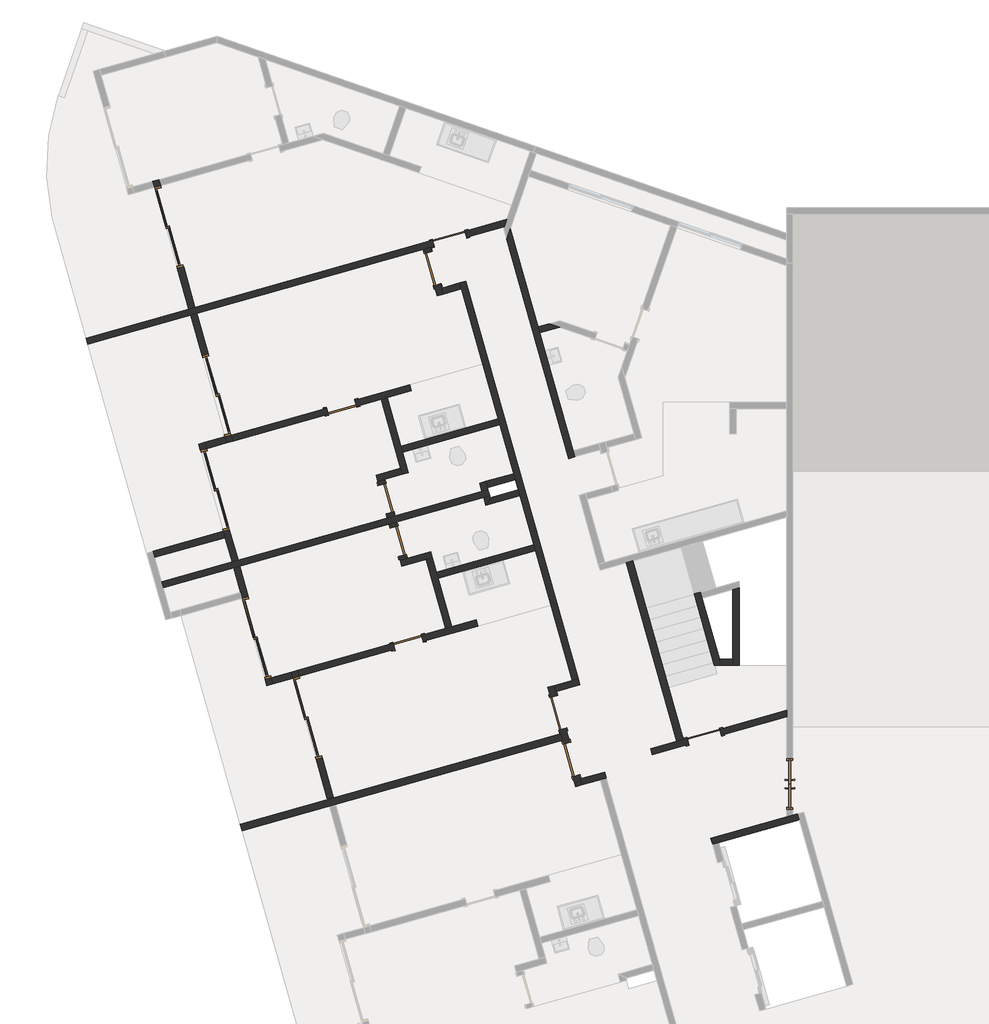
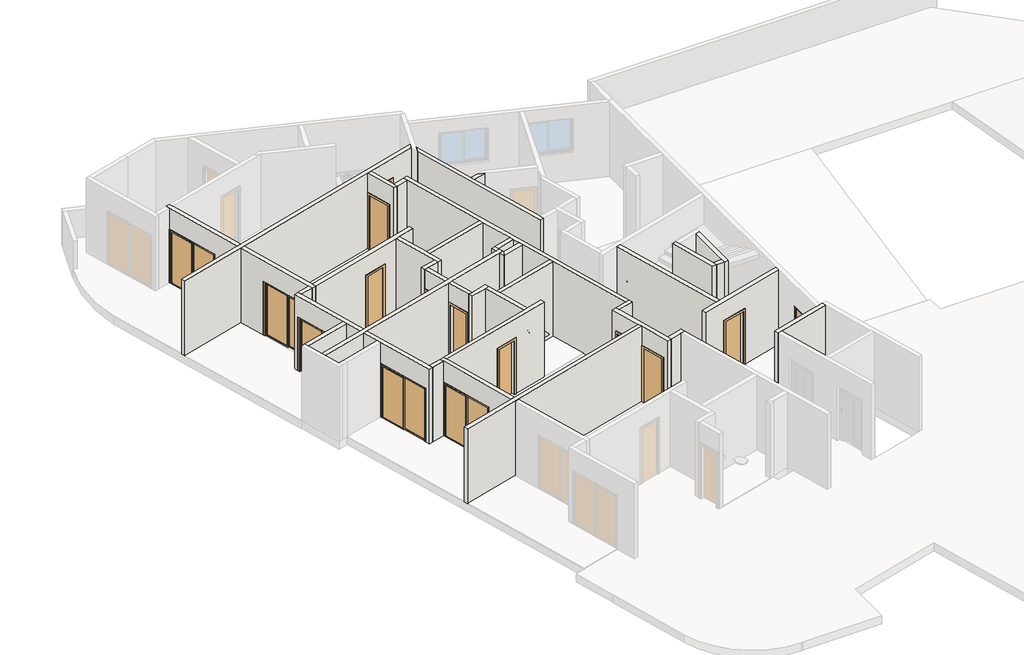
# One storey, part 2 of 4: 39 walls, 15 doors.
"""IFC4 building model written with IfcOpenShell, lengths in millimetres."""

from ifc_helpers import new_model, si_unit, frame, origin, place, context, project, spatial, polyline, outline, extrude, faceted_brep, transform, mapped, element, save
from components import door_1_20_x_2_10_046a985c, p2_80cm_9d4be4ef, p2_80cm_083652d6, p3_70cm_ef4d15e3, p3_70cm_0a698c7c, p4_correr_200cm_eaaa0877

model = new_model("IFC4")

# Units and contexts
model_context = context("Model", 3, world=origin())
ifc_project = project(units=[si_unit("LENGTHUNIT", "METRE", prefix="MILLI")], contexts=[model_context])

# Site, building, storey
site = spatial("IfcSite", under=ifc_project)
building = spatial("IfcBuilding", under=site)
storey = spatial("IfcBuildingStorey", under=building, Name="Garagem 4", Elevation=39150.0)

# Doors
placement = place(None, origin())
door_1_20_x_2_10_shape = door_1_20_x_2_10_046a985c(model_context)
element("IfcDoor", 1, ObjectType="Porta pivotante dupla sem revestimento : 1.20 x 2.10", at=placement, inside=storey, context=model_context, shape_type="MappedRepresentation", body=[
    mapped(door_1_20_x_2_10_shape, transform((-75072.8282189, 18002.5140353, 39150.0), x_axis=(0.0, -1.0, 0.0), y_axis=(1.0, 0.0, 0.0), z_axis=(0.0, 0.0, 1.0))),
])
p2_80cm_shape = p2_80cm_9d4be4ef(model_context)
element("IfcDoor", 2, ObjectType="M_Folha única1 : P2 - 80CM", at=placement, inside=storey, context=model_context, shape_type="MappedRepresentation", body=[
    mapped(p2_80cm_shape, transform((-83145.1128896, 30941.0402894, 39150.0), x_axis=(-0.9623628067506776, -0.2717679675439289, 0.0), y_axis=(0.2717679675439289, -0.9623628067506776, 0.0), z_axis=(0.0, 0.0, 1.0))),
])
element("IfcDoor", 3, ObjectType="M_Folha única1 : P2 - 80CM", at=placement, inside=storey, context=model_context, shape_type="MappedRepresentation", body=[
    mapped(p2_80cm_shape, transform((-80566.3456776, 19693.5423602, 39150.0), x_axis=(0.2717679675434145, -0.9623628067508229, 0.0), y_axis=(0.9623628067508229, 0.2717679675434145, 0.0), z_axis=(0.0, 0.0, 1.0))),
])
p2_80cm_2_shape = p2_80cm_083652d6(model_context)
element("IfcDoor", 4, ObjectType="M_Folha única1 : P2 - 80CM", at=placement, inside=storey, context=model_context, shape_type="MappedRepresentation", body=[
    mapped(p2_80cm_2_shape, transform((-83542.2049222, 30231.4150941, 39150.0), x_axis=(-0.2717679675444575, 0.9623628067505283, 0.0), y_axis=(-0.9623628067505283, -0.2717679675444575, 0.0), z_axis=(0.0, 0.0, 1.0))),
])
element("IfcDoor", 5, ObjectType="M_Folha única1 : P2 - 80CM", at=placement, inside=storey, context=model_context, shape_type="MappedRepresentation", body=[
    mapped(p2_80cm_2_shape, transform((-80253.8125149, 18586.8251325, 39150.0), x_axis=(-0.2717679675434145, 0.9623628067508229, 0.0), y_axis=(-0.9623628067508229, -0.2717679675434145, 0.0), z_axis=(0.0, 0.0, 1.0))),
])
p3_70cm_shape = p3_70cm_ef4d15e3(model_context)
element("IfcDoor", 6, ObjectType="M_Folha única1 : P3 - 70CM", at=placement, inside=storey, context=model_context, shape_type="MappedRepresentation", body=[
    mapped(p3_70cm_shape, transform((-84129.1775441, 21363.1168842, 39150.0), x_axis=(0.9623628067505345, 0.27176796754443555, 0.0), y_axis=(-0.27176796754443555, 0.9623628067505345, 0.0), z_axis=(0.0, 0.0, 1.0))),
])
element("IfcDoor", 7, ObjectType="M_Folha única1 : P3 - 70CM", at=placement, inside=storey, context=model_context, shape_type="MappedRepresentation", body=[
    mapped(p3_70cm_shape, transform((-84650.97864, 24774.7108835, 39150.0), x_axis=(0.2717679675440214, -0.9623628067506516, 0.0), y_axis=(0.9623628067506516, 0.2717679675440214, 0.0), z_axis=(0.0, 0.0, 1.0))),
])
p3_70cm_2_shape = p3_70cm_0a698c7c(model_context)
element("IfcDoor", 8, ObjectType="M_Folha única1 : P3 - 70CM", at=placement, inside=storey, context=model_context, shape_type="MappedRepresentation", body=[
    mapped(p3_70cm_2_shape, transform((-84365.6222741, 23764.2299364, 39150.0), x_axis=(-0.2717679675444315, 0.9623628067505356, 0.0), y_axis=(-0.9623628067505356, -0.2717679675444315, 0.0), z_axis=(0.0, 0.0, 1.0))),
])
element("IfcDoor", 9, ObjectType="M_Folha única1 : P3 - 70CM", at=placement, inside=storey, context=model_context, shape_type="MappedRepresentation", body=[
    mapped(p3_70cm_2_shape, transform((-85705.4317558, 26944.8211633, 39150.0), x_axis=(0.9623628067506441, 0.2717679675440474, 0.0), y_axis=(-0.2717679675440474, 0.9623628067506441, 0.0), z_axis=(0.0, 0.0, 1.0))),
])
p4_correr_200cm_shape = p4_correr_200cm_eaaa0877(model_context)
element("IfcDoor", 10, ObjectType="Porta de correr dupla envidraçada sem revestimento : P4 - CORRER - 200CM", at=placement, inside=storey, context=model_context, shape_type="MappedRepresentation", body=[
    mapped(p4_correr_200cm_shape, transform((-89799.7974026, 31217.9316171, 39150.0), x_axis=(0.27176796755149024, -0.9623628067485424, 0.0), y_axis=(0.9623628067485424, 0.27176796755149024, 0.0), z_axis=(0.0, 0.0, 1.0))),
])
element("IfcDoor", 11, ObjectType="Porta de correr dupla envidraçada sem revestimento : P4 - CORRER - 200CM", at=placement, inside=storey, context=model_context, shape_type="MappedRepresentation", body=[
    mapped(p4_correr_200cm_shape, transform((-88671.9603372, 27224.125969, 39150.0), x_axis=(-0.27176796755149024, 0.9623628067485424, 0.0), y_axis=(-0.9623628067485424, -0.27176796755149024, 0.0), z_axis=(0.0, 0.0, 1.0))),
])
element("IfcDoor", 12, ObjectType="Porta de correr dupla envidraçada sem revestimento : P4 - CORRER - 200CM", at=placement, inside=storey, context=model_context, shape_type="MappedRepresentation", body=[
    mapped(p4_correr_200cm_shape, transform((-86511.4049952, 19573.3416554, 39150.0), x_axis=(0.2717679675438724, -0.9623628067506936, 0.0), y_axis=(0.9623628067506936, 0.2717679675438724, 0.0), z_axis=(0.0, 0.0, 1.0))),
])
element("IfcDoor", 13, ObjectType="Porta de correr dupla envidraçada sem revestimento : P4 - CORRER - 200CM", at=placement, inside=storey, context=model_context, shape_type="MappedRepresentation", body=[
    mapped(p4_correr_200cm_shape, transform((-87717.4207223, 21466.8516126, 39150.0), x_axis=(0.2717679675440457, -0.9623628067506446, 0.0), y_axis=(0.9623628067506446, 0.2717679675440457, 0.0), z_axis=(0.0, 0.0, 1.0))),
])
element("IfcDoor", 14, ObjectType="Porta de correr dupla envidraçada sem revestimento : P4 - CORRER - 200CM", at=placement, inside=storey, context=model_context, shape_type="MappedRepresentation", body=[
    mapped(p4_correr_200cm_shape, transform((-88709.3738038, 24979.4758572, 39150.0), x_axis=(-0.2717679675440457, 0.9623628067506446, 0.0), y_axis=(-0.9623628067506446, -0.2717679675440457, 0.0), z_axis=(0.0, 0.0, 1.0))),
])
element("IfcDoor", 15, ObjectType="M_Folha única1 : PCF1 - 80CM", at=placement, inside=storey, context=model_context, shape_type="MappedRepresentation", body=[
    mapped(p2_80cm_shape, transform((-77103.5502958, 19127.1105693, 39150.0), x_axis=(-0.9623628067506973, -0.2717679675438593, 0.0), y_axis=(0.2717679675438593, -0.9623628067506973, 0.0), z_axis=(0.0, 0.0, 1.0))),
])

# Walls
element("IfcWall", 16, ObjectType="Básica .15 -  Interna", at=placement, inside=storey, context=model_context, shape_type="Brep", body=[
    faceted_brep([(-82901.0804648, 29892.9118737, 39150.0), (-82860.3152697, 29748.5574527, 39150.0), (-81990.6577736, 26668.9964711, 39150.0), (-81949.8925784, 26524.6420501, 39150.0), (-81623.7710174, 25369.806682, 39150.0), (-81583.0058223, 25225.452261, 39150.0), (-81515.0638304, 24984.8615593, 39150.0), (-81474.2986352, 24840.5071383, 39150.0), (-81148.1770742, 23685.6717702, 39150.0), (-81107.4118791, 23541.3173492, 39150.0), (-80237.7543829, 20461.7563676, 39150.0), (-80237.7543829, 20461.7563676, 42050.0), (-81107.4118791, 23541.3173492, 42050.0), (-81148.1770742, 23685.6717702, 42050.0), (-81474.2986352, 24840.5071383, 42050.0), (-81515.0638304, 24984.8615593, 42050.0), (-81583.0058223, 25225.452261, 42050.0), (-81623.7710174, 25369.806682, 42050.0), (-81949.8925784, 26524.6420501, 42050.0), (-81990.6577736, 26668.9964711, 42050.0), (-82860.3152697, 29748.5574527, 42050.0), (-82901.0804648, 29892.9118737, 42050.0), (-82756.7260438, 29933.6770689, 39150.0), (-82756.7260438, 29933.6770689, 42050.0), (-80093.3999619, 20502.5215627, 42050.0), (-80093.3999619, 20502.5215627, 39150.0)], [[[0, 1, 2, 3, 4, 5, 6, 7, 8, 9, 10, 11, 12, 13, 14, 15, 16, 17, 18, 19, 20, 21]], [[22, 23, 24, 25]], [[10, 9, 8, 7, 6, 5, 4, 3, 2, 1, 0, 22, 25]], [[21, 20, 19, 18, 17, 16, 15, 14, 13, 12, 11, 24, 23]], [[0, 21, 23, 22]], [[11, 10, 25, 24]]]),
])
element("IfcWall", 17, ObjectType="Básica .15 -  Interna", at=placement, inside=storey, context=model_context, shape_type="Brep", body=[
    faceted_brep([(-83750.2661164, 30692.2138999, 39150.0), (-83723.0893197, 30595.9776193, 39150.0), (-83723.0893197, 30595.9776193, 41250.0), (-83505.6749457, 29826.0873739, 41250.0), (-83505.6749457, 29826.0873739, 39150.0), (-83437.7329538, 29585.4966722, 39150.0), (-83437.7329538, 29585.4966722, 42050.0), (-83750.2661164, 30692.2138999, 42050.0), (-83578.7348987, 30636.7428144, 41250.0), (-83578.7348987, 30636.7428144, 39150.0), (-83605.9116954, 30732.9790951, 39150.0), (-83605.9116954, 30732.9790951, 42050.0), (-83334.1437279, 29770.6162883, 42050.0), (-83293.3785328, 29626.2618673, 42050.0), (-83293.3785328, 29626.2618673, 39150.0), (-83334.1437279, 29770.6162883, 39150.0), (-83361.3205246, 29866.852569, 39150.0), (-83361.3205246, 29866.852569, 41250.0)], [[[0, 1, 2, 3, 4, 5, 6, 7]], [[8, 9, 10, 11, 12, 13, 14, 15, 16, 17]], [[10, 9, 1, 0]], [[16, 15, 14, 5, 4]], [[7, 6, 13, 12, 11]], [[6, 5, 14, 13]], [[0, 7, 11, 10]], [[2, 1, 9, 8]], [[3, 2, 8, 17]], [[4, 3, 17, 16]]]),
])
element("IfcWall", 18, ObjectType="Básica .15 -  Interna", at=placement, inside=storey, context=model_context, shape_type="SweptSolid", body=[
    extrude(outline(polyline([(-82860.3152697, 29748.5574527), (-83293.3785328, 29626.2618673), (-83334.1437279, 29770.6162883), (-82901.0804648, 29892.9118737), (-82860.3152697, 29748.5574527)])), frame((0.0, 0.0, 39150.0), z_axis=(0.0, 0.0, 1.0), x_axis=(1.0, 0.0, 0.0)), (0.0, 0.0, 1.0), 2900.0),
])
element("IfcWall", 19, ObjectType="Básica .15 -  Interna", at=placement, inside=storey, context=model_context, shape_type="Brep", body=[
    faceted_brep([(-80093.3999619, 20502.5215627, 39150.0), (-80237.7543829, 20461.7563676, 39150.0), (-80670.817646, 20339.4607822, 39150.0), (-80670.817646, 20339.4607822, 42050.0), (-80237.7543829, 20461.7563676, 42050.0), (-80093.3999619, 20502.5215627, 42050.0), (-80052.6347668, 20358.1671417, 39150.0), (-80052.6347668, 20358.1671417, 42050.0), (-80630.0524508, 20195.1063612, 42050.0), (-80630.0524508, 20195.1063612, 39150.0)], [[[0, 1, 2, 3, 4, 5]], [[6, 7, 8, 9]], [[2, 1, 0, 6, 9]], [[5, 4, 3, 8, 7]], [[3, 2, 9, 8]], [[0, 5, 7, 6]]]),
])
element("IfcWall", 20, ObjectType="Básica .15 -  Interna", at=placement, inside=storey, context=model_context, shape_type="Brep", body=[
    faceted_brep([(-80529.815701, 19288.21464, 39150.0), (-80502.6389043, 19191.9783593, 39150.0), (-80461.8737092, 19047.6239383, 39150.0), (-80434.6969124, 18951.3876576, 39150.0), (-80434.6969124, 18951.3876576, 41250.0), (-80217.2825384, 18181.4974122, 41250.0), (-80217.2825384, 18181.4974122, 39150.0), (-80149.3405465, 17940.9067105, 39150.0), (-80149.3405465, 17940.9067105, 42050.0), (-80461.8737092, 19047.6239383, 42050.0), (-80502.6389043, 19191.9783593, 42050.0), (-80815.172067, 20298.695587, 42050.0), (-80815.172067, 20298.695587, 39150.0), (-80747.2300751, 20058.1048854, 39150.0), (-80747.2300751, 20058.1048854, 41250.0), (-80529.815701, 19288.21464, 41250.0), (-80290.3424914, 18992.1528527, 41250.0), (-80290.3424914, 18992.1528527, 39150.0), (-80385.46128, 19328.9798351, 39150.0), (-80385.46128, 19328.9798351, 41250.0), (-80602.8756541, 20098.8700805, 41250.0), (-80602.8756541, 20098.8700805, 39150.0), (-80630.0524508, 20195.1063612, 39150.0), (-80670.817646, 20339.4607822, 39150.0), (-80670.817646, 20339.4607822, 42050.0), (-80630.0524508, 20195.1063612, 42050.0), (-80045.7513206, 18126.0263266, 42050.0), (-80004.9861255, 17981.6719056, 42050.0), (-80004.9861255, 17981.6719056, 39150.0), (-80045.7513206, 18126.0263266, 39150.0), (-80072.9281174, 18222.2626073, 39150.0), (-80072.9281174, 18222.2626073, 41250.0)], [[[0, 1, 2, 3, 4, 5, 6, 7, 8, 9, 10, 11, 12, 13, 14, 15]], [[16, 17, 18, 19, 20, 21, 22, 23, 24, 25, 26, 27, 28, 29, 30, 31]], [[13, 12, 23, 22, 21]], [[18, 17, 3, 2, 1, 0]], [[30, 29, 28, 7, 6]], [[11, 10, 9, 8, 27, 26, 25, 24]], [[12, 11, 24, 23]], [[8, 7, 28, 27]], [[19, 18, 0, 15]], [[20, 19, 15, 14]], [[21, 20, 14, 13]], [[4, 3, 17, 16]], [[5, 4, 16, 31]], [[6, 5, 31, 30]]]),
])
element("IfcWall", 21, ObjectType="Básica .15 -  Interna", at=placement, inside=storey, context=model_context, shape_type="Brep", body=[
    faceted_brep([(-80004.9861255, 17981.6719056, 39150.0), (-79571.9228624, 18103.967491, 39150.0), (-79427.5684414, 18144.7326862, 39150.0), (-79427.5684414, 18144.7326862, 42050.0), (-79571.9228624, 18103.967491, 42050.0), (-80004.9861255, 17981.6719056, 42050.0), (-80045.7513206, 18126.0263266, 39150.0), (-80045.7513206, 18126.0263266, 42050.0), (-79468.3336366, 18289.0871072, 42050.0), (-79468.3336366, 18289.0871072, 39150.0)], [[[0, 1, 2, 3, 4, 5]], [[6, 7, 8, 9]], [[2, 1, 0, 6, 9]], [[5, 4, 3, 8, 7]], [[3, 2, 9, 8]], [[0, 5, 7, 6]]]),
])
element("IfcWall", 22, ObjectType="Básica .15 -  Interna", at=placement, inside=storey, context=model_context, shape_type="Brep", body=[
    faceted_brep([(-86046.8404698, 17652.2925145, 39150.0), (-86046.8404698, 17652.2925145, 42050.0), (-86855.3501733, 20515.3218646, 42050.0), (-86896.1153684, 20659.6762856, 42050.0), (-86896.1153684, 20659.6762856, 39150.0), (-86855.3501733, 20515.3218646, 39150.0), (-86855.3501733, 20515.3218646, 41250.0), (-86311.8142382, 18590.596251, 41250.0), (-86311.8142382, 18590.596251, 39150.0), (-85902.4860488, 17693.0577096, 42050.0), (-85902.4860488, 17693.0577096, 39150.0), (-86167.4598172, 18631.3614462, 39150.0), (-86167.4598172, 18631.3614462, 41250.0), (-86710.9957523, 20556.0870597, 41250.0), (-86710.9957523, 20556.0870597, 39150.0), (-86751.7609474, 20700.4414807, 39150.0), (-86751.7609474, 20700.4414807, 42050.0), (-86710.9957523, 20556.0870597, 42050.0)], [[[0, 1, 2, 3, 4, 5, 6, 7, 8]], [[9, 10, 11, 12, 13, 14, 15, 16, 17]], [[10, 0, 8, 11]], [[4, 15, 14, 5]], [[1, 0, 10, 9]], [[3, 2, 1, 9, 17, 16]], [[4, 3, 16, 15]], [[7, 12, 11, 8]], [[12, 7, 6, 13]], [[13, 6, 5, 14]]]),
])
element("IfcWall", 23, ObjectType="Básica .15 -  Interna", at=placement, inside=storey, context=model_context, shape_type="Brep", body=[
    faceted_brep([(-88305.9570711, 23274.9583478, 42050.0), (-88469.0178517, 23852.3760319, 42050.0), (-88509.7830468, 23996.7304529, 42050.0), (-89094.084177, 26065.8104874, 42050.0), (-89094.084177, 26065.8104874, 39150.0), (-89053.3189819, 25921.4560664, 39150.0), (-89053.3189819, 25921.4560664, 41250.0), (-88509.7830468, 23996.7304529, 41250.0), (-88509.7830468, 23996.7304529, 39150.0), (-88469.0178517, 23852.3760319, 39150.0), (-88305.9570711, 23274.9583478, 39150.0), (-88949.729756, 26106.5756825, 42050.0), (-88908.9645609, 25962.2212615, 42050.0), (-88161.6026501, 23315.723543, 42050.0), (-88161.6026501, 23315.723543, 39150.0), (-88365.4286258, 24037.495648, 39150.0), (-88365.4286258, 24037.495648, 41250.0), (-88908.9645609, 25962.2212615, 41250.0), (-88908.9645609, 25962.2212615, 39150.0), (-88949.729756, 26106.5756825, 39150.0)], [[[0, 1, 2, 3, 4, 5, 6, 7, 8, 9, 10]], [[11, 12, 13, 14, 15, 16, 17, 18, 19]], [[4, 19, 18, 5]], [[14, 10, 9, 8, 15]], [[3, 2, 1, 0, 13, 12, 11]], [[4, 3, 11, 19]], [[0, 10, 14, 13]], [[17, 6, 5, 18]], [[6, 17, 16, 7]], [[7, 16, 15, 8]]]),
])
element("IfcWall", 24, ObjectType="Básica .15 -  Interna", at=placement, inside=storey, context=model_context, shape_type="Brep", body=[
    faceted_brep([(-89143.3190618, 29169.2341801, 42050.0), (-88328.0151592, 26282.1457598, 42050.0), (-88287.249964, 26137.7913388, 42050.0), (-88287.249964, 26137.7913388, 39150.0), (-88328.0151592, 26282.1457598, 39150.0), (-88328.0151592, 26282.1457598, 41250.0), (-88871.5510943, 28206.8713733, 41250.0), (-88871.5510943, 28206.8713733, 39150.0), (-89143.3190618, 29169.2341801, 39150.0), (-88431.604385, 26097.0261437, 42050.0), (-88472.3695802, 26241.3805647, 42050.0), (-89287.6734828, 29128.468985, 42050.0), (-89287.6734828, 29128.468985, 39150.0), (-89015.9055153, 28166.1061782, 39150.0), (-89015.9055153, 28166.1061782, 41250.0), (-88472.3695802, 26241.3805647, 41250.0), (-88472.3695802, 26241.3805647, 39150.0), (-88431.604385, 26097.0261437, 39150.0)], [[[0, 1, 2, 3, 4, 5, 6, 7, 8]], [[9, 10, 11, 12, 13, 14, 15, 16, 17]], [[3, 17, 16, 4]], [[12, 8, 7, 13]], [[2, 1, 0, 11, 10, 9]], [[3, 2, 9, 17]], [[0, 8, 12, 11]], [[6, 14, 13, 7]], [[14, 6, 5, 15]], [[15, 5, 4, 16]]]),
])
element("IfcWall", 25, ObjectType="Básica .15 -  Interna", at=placement, inside=storey, context=model_context, shape_type="Brep", body=[
    faceted_brep([(-76904.7538909, 16570.3643175, 39150.0), (-76760.3994699, 16611.1295126, 39150.0), (-74840.4856705, 17153.3066079, 39150.0), (-74840.4856705, 17153.3066079, 42050.0), (-76760.3994699, 16611.1295126, 42050.0), (-76904.7538909, 16570.3643175, 42050.0), (-76945.5190861, 16714.7187385, 39150.0), (-76945.5190861, 16714.7187385, 42050.0), (-75147.8282189, 17222.3804954, 42050.0), (-74997.8282189, 17264.7399828, 42050.0), (-74881.2508656, 17297.6610289, 42050.0), (-74881.2508656, 17297.6610289, 39150.0), (-74997.8282189, 17264.7399828, 39150.0), (-75147.8282189, 17222.3804954, 39150.0)], [[[0, 1, 2, 3, 4, 5]], [[6, 7, 8, 9, 10, 11, 12, 13]], [[2, 1, 0, 6, 13, 12, 11]], [[5, 4, 3, 10, 9, 8, 7]], [[0, 5, 7, 6]], [[3, 2, 11, 10]]]),
])
element("IfcWall", 26, ObjectType="Básica .15 -  Interna", at=placement, inside=storey, context=model_context, shape_type="SweptSolid", body=[
    extrude(outline(polyline([(-77749.4687652, 19022.6385875), (-78948.2127609, 23254.4051886), (-78803.8582924, 23295.1703972), (-77605.1142967, 19063.4037961), (-77749.4687652, 19022.6385875)])), frame((0.0, 0.0, 39150.0), z_axis=(0.0, 0.0, 1.0), x_axis=(1.0, 0.0, 0.0)), (0.0, 0.0, 1.0), 2900.0),
])
element("IfcWall", 27, ObjectType="Básica .15 -  Interna", at=placement, inside=storey, context=model_context, shape_type="Brep", body=[
    faceted_brep([(-77508.878016, 19090.5805928, 41250.0), (-77508.878016, 19090.5805928, 39150.0), (-77605.1142967, 19063.4037961, 39150.0), (-77749.4687652, 19022.6385875, 39150.0), (-78375.5945972, 18845.8227925, 39150.0), (-78375.5945972, 18845.8227925, 42050.0), (-77749.4687652, 19022.6385875, 42050.0), (-77605.1142967, 19063.4037961, 42050.0), (-75147.8282189, 19757.3329862, 42050.0), (-75147.8282189, 19757.3329862, 39150.0), (-76738.9877706, 19307.9949669, 39150.0), (-76738.9877706, 19307.9949669, 41250.0), (-78334.829402, 18701.4683715, 39150.0), (-77468.1128209, 18946.2261718, 39150.0), (-77468.1128209, 18946.2261718, 41250.0), (-76698.2225755, 19163.6405459, 41250.0), (-76698.2225755, 19163.6405459, 39150.0), (-75147.8282189, 19601.4666134, 39150.0), (-75147.8282189, 19601.4666134, 42050.0), (-78334.829402, 18701.4683715, 42050.0)], [[[0, 1, 2, 3, 4, 5, 6, 7, 8, 9, 10, 11]], [[12, 13, 14, 15, 16, 17, 18, 19]], [[10, 9, 17, 16]], [[4, 3, 2, 1, 13, 12]], [[5, 4, 12, 19]], [[8, 7, 6, 5, 19, 18]], [[14, 13, 1, 0]], [[15, 14, 0, 11]], [[16, 15, 11, 10]], [[9, 8, 18, 17]]]),
])
element("IfcWall", 28, ObjectType="Básica .15 -  Interna", at=placement, inside=storey, context=model_context, shape_type="Brep", body=[
    faceted_brep([(-81789.2550074, 30934.0017027, 39150.0), (-80318.2667662, 25725.0567879, 39150.0), (-80318.2667662, 25725.0567879, 42050.0), (-81789.2550074, 30934.0017027, 42050.0), (-81703.3880158, 31181.8778654, 39150.0), (-81703.3880158, 31181.8778654, 42050.0), (-81045.1503443, 28850.9797144, 42050.0), (-81004.3851492, 28706.6252933, 42050.0), (-80214.6775403, 25910.176404, 42050.0), (-80173.9123452, 25765.821983, 42050.0), (-80173.9123452, 25765.821983, 39150.0), (-80214.6775403, 25910.176404, 39150.0), (-81004.3851492, 28706.6252933, 39150.0), (-81045.1503443, 28850.9797144, 39150.0)], [[[0, 1, 2, 3]], [[4, 5, 6, 7, 8, 9, 10, 11, 12, 13]], [[1, 0, 4, 13, 12, 11, 10]], [[3, 2, 9, 8, 7, 6, 5]], [[0, 3, 5, 4]], [[2, 1, 10, 9]]]),
])
element("IfcWall", 29, ObjectType="Básica .15 -  Interna", at=placement, inside=storey, context=model_context, shape_type="Brep", body=[
    faceted_brep([(-90140.5182123, 23380.3500428, 39150.0), (-88469.0178517, 23852.3760319, 39150.0), (-88469.0178517, 23852.3760319, 42050.0), (-90140.5182123, 23380.3500428, 42050.0), (-90181.2834074, 23524.7044638, 39150.0), (-90181.2834074, 23524.7044638, 42050.0), (-88509.7830468, 23996.7304529, 42050.0), (-88509.7830468, 23996.7304529, 41250.0), (-88509.7830468, 23996.7304529, 39150.0)], [[[0, 1, 2, 3]], [[4, 5, 6, 7, 8]], [[1, 0, 4, 8]], [[3, 2, 6, 5]], [[0, 3, 5, 4]], [[2, 1, 8, 7, 6]]]),
])
element("IfcWall", 30, ObjectType="Básica .15 -  Interna", at=placement, inside=storey, context=model_context, shape_type="Brep", body=[
    faceted_brep([(-86896.1153684, 20659.6762856, 39150.0), (-87373.4755442, 20524.8714034, 39150.0), (-87373.4755442, 20524.8714034, 41250.0), (-87373.4755442, 20524.8714034, 42050.0), (-86896.1153684, 20659.6762856, 42050.0), (-86855.3501733, 20515.3218646, 39150.0), (-86855.3501733, 20515.3218646, 41250.0), (-86855.3501733, 20515.3218646, 42050.0), (-87332.7103491, 20380.5169824, 42050.0), (-87332.7103491, 20380.5169824, 39150.0)], [[[0, 1, 2, 3, 4]], [[5, 6, 7, 8, 9]], [[1, 0, 5, 9]], [[4, 3, 8, 7]], [[0, 4, 7, 6, 5]], [[3, 2, 1, 9, 8]]]),
])
element("IfcWall", 31, ObjectType="Básica .15 -  Interna", at=placement, inside=storey, context=model_context, shape_type="Brep", body=[
    faceted_brep([(-88908.9645609, 25962.2212615, 39150.0), (-88431.604385, 26097.0261437, 39150.0), (-88431.604385, 26097.0261437, 42050.0), (-88908.9645609, 25962.2212615, 42050.0), (-88908.9645609, 25962.2212615, 41250.0), (-88949.729756, 26106.5756825, 39150.0), (-88949.729756, 26106.5756825, 42050.0), (-88472.3695802, 26241.3805647, 42050.0), (-88472.3695802, 26241.3805647, 39150.0)], [[[0, 1, 2, 3, 4]], [[5, 6, 7, 8]], [[1, 0, 5, 8]], [[3, 2, 7, 6]], [[0, 4, 3, 6, 5]], [[2, 1, 8, 7]]]),
])
element("IfcWall", 32, ObjectType="Básica .15 -  Interna", at=placement, inside=storey, context=model_context, shape_type="Brep", body=[
    faceted_brep([(-91725.2428613, 28440.1077234, 39150.0), (-89287.6734828, 29128.468985, 39150.0), (-89143.3190618, 29169.2341801, 39150.0), (-83750.2661164, 30692.2138999, 39150.0), (-83605.9116954, 30732.9790951, 39150.0), (-83509.6754148, 30760.1558918, 39150.0), (-83509.6754148, 30760.1558918, 41250.0), (-82739.7851694, 30977.5702659, 41250.0), (-82739.7851694, 30977.5702659, 39150.0), (-81845.4155775, 31230.1371819, 39150.0), (-81845.4155775, 31230.1371819, 42050.0), (-83605.9116954, 30732.9790951, 42050.0), (-83750.2661164, 30692.2138999, 42050.0), (-89143.3190618, 29169.2341801, 42050.0), (-89287.6734828, 29128.468985, 42050.0), (-91725.2428613, 28440.1077234, 42050.0), (-83550.4406099, 30904.5103128, 41250.0), (-83550.4406099, 30904.5103128, 39150.0), (-89184.084257, 29313.5886011, 39150.0), (-89328.438678, 29272.823406, 39150.0), (-91766.0080564, 28584.4621444, 39150.0), (-91766.0080564, 28584.4621444, 42050.0), (-89328.438678, 29272.823406, 42050.0), (-89184.084257, 29313.5886011, 42050.0), (-81785.5670817, 31402.9045654, 42050.0), (-81785.5670817, 31402.9045654, 39150.0), (-82780.5503645, 31121.9246869, 39150.0), (-82780.5503645, 31121.9246869, 41250.0)], [[[0, 1, 2, 3, 4, 5, 6, 7, 8, 9, 10, 11, 12, 13, 14, 15]], [[16, 17, 18, 19, 20, 21, 22, 23, 24, 25, 26, 27]], [[26, 25, 9, 8]], [[20, 19, 18, 17, 5, 4, 3, 2, 1, 0]], [[15, 14, 13, 12, 11, 10, 24, 23, 22, 21]], [[0, 15, 21, 20]], [[10, 9, 25, 24]], [[6, 5, 17, 16]], [[7, 6, 16, 27]], [[8, 7, 27, 26]]]),
])
element("IfcWall", 33, ObjectType="Básica .15 -  Interna", at=placement, inside=storey, context=model_context, shape_type="Brep", body=[
    faceted_brep([(-90040.1533547, 32345.0314424, 42050.0), (-89999.3881596, 32200.6770214, 42050.0), (-89184.084257, 29313.5886011, 42050.0), (-89184.084257, 29313.5886011, 39150.0), (-89455.8522245, 30275.9514079, 39150.0), (-89455.8522245, 30275.9514079, 41250.0), (-89999.3881596, 32200.6770214, 41250.0), (-89999.3881596, 32200.6770214, 39150.0), (-90040.1533547, 32345.0314424, 39150.0), (-89328.438678, 29272.823406, 42050.0), (-90143.7425806, 32159.9118263, 42050.0), (-90184.5077758, 32304.2662473, 42050.0), (-90184.5077758, 32304.2662473, 39150.0), (-90143.7425806, 32159.9118262, 39150.0), (-90143.7425806, 32159.9118262, 41250.0), (-89600.2066455, 30235.1862128, 41250.0), (-89600.2066455, 30235.1862128, 39150.0), (-89328.438678, 29272.823406, 39150.0)], [[[0, 1, 2, 3, 4, 5, 6, 7, 8]], [[9, 10, 11, 12, 13, 14, 15, 16, 17]], [[12, 8, 7, 13]], [[3, 17, 16, 4]], [[2, 1, 0, 11, 10, 9]], [[0, 8, 12, 11]], [[3, 2, 9, 17]], [[15, 5, 4, 16]], [[5, 15, 14, 6]], [[6, 14, 13, 7]]]),
])
element("IfcWall", 34, ObjectType="Básica .15 -  Interna", at=placement, inside=storey, context=model_context, shape_type="Brep", body=[
    faceted_brep([(-89936.6922366, 22658.5779377, 39150.0), (-88265.191876, 23130.6039268, 39150.0), (-88120.837455, 23171.369122, 39150.0), (-84560.09507, 24176.9106019, 39150.0), (-84415.740649, 24217.675797, 39150.0), (-82192.6825654, 24845.459802, 39150.0), (-82192.6825654, 24845.459802, 42050.0), (-84415.740649, 24217.675797, 42050.0), (-84560.09507, 24176.9106019, 42050.0), (-88120.837455, 23171.369122, 42050.0), (-88265.191876, 23130.6039268, 42050.0), (-89936.6922366, 22658.5779377, 42050.0), (-89977.4574318, 22802.9323587, 39150.0), (-89977.4574318, 22802.9323587, 42050.0), (-88305.9570711, 23274.9583478, 42050.0), (-88161.6026501, 23315.723543, 42050.0), (-84600.8602651, 24321.2650229, 42050.0), (-84456.5058441, 24362.030218, 42050.0), (-82233.4477605, 24989.814223, 42050.0), (-82233.4477605, 24989.814223, 39150.0), (-84456.5058441, 24362.030218, 39150.0), (-84600.8602651, 24321.2650229, 39150.0), (-88161.6026501, 23315.723543, 39150.0), (-88305.9570711, 23274.9583478, 39150.0)], [[[0, 1, 2, 3, 4, 5, 6, 7, 8, 9, 10, 11]], [[12, 13, 14, 15, 16, 17, 18, 19, 20, 21, 22, 23]], [[5, 4, 3, 2, 1, 0, 12, 23, 22, 21, 20, 19]], [[6, 5, 19, 18]], [[11, 10, 9, 8, 7, 6, 18, 17, 16, 15, 14, 13]], [[0, 11, 13, 12]]]),
])
element("IfcWall", 35, ObjectType="Básica .15 -  Interna", at=placement, inside=storey, context=model_context, shape_type="Brep", body=[
    faceted_brep([(-87477.0647701, 20339.7517872, 42050.0), (-88061.3659003, 22408.8318218, 42050.0), (-88102.1310955, 22553.1862428, 42050.0), (-88265.191876, 23130.6039268, 42050.0), (-88265.191876, 23130.6039268, 39150.0), (-88102.1310955, 22553.1862428, 39150.0), (-88061.3659003, 22408.8318218, 39150.0), (-88061.3659003, 22408.8318218, 41250.0), (-87517.8299653, 20484.1062083, 41250.0), (-87517.8299653, 20484.1062083, 39150.0), (-87477.0647701, 20339.7517872, 39150.0), (-88120.837455, 23171.369122, 42050.0), (-87373.4755442, 20524.8714034, 42050.0), (-87332.7103491, 20380.5169824, 42050.0), (-87332.7103491, 20380.5169824, 39150.0), (-87373.4755442, 20524.8714034, 39150.0), (-87373.4755442, 20524.8714034, 41250.0), (-87917.0114793, 22449.5970169, 41250.0), (-87917.0114793, 22449.5970169, 39150.0), (-88120.837455, 23171.369122, 39150.0)], [[[0, 1, 2, 3, 4, 5, 6, 7, 8, 9, 10]], [[11, 12, 13, 14, 15, 16, 17, 18, 19]], [[14, 10, 9, 15]], [[4, 19, 18, 6, 5]], [[3, 2, 1, 0, 13, 12, 11]], [[0, 10, 14, 13]], [[4, 3, 11, 19]], [[8, 16, 15, 9]], [[16, 8, 7, 17]], [[17, 7, 6, 18]]]),
])
element("IfcWall", 36, ObjectType="Básica .15 -  Interna", at=placement, inside=storey, context=model_context, shape_type="SweptSolid", body=[
    extrude(outline(polyline([(-80461.8737092, 19047.6239383), (-88068.36111, 16899.5778931), (-88109.1263052, 17043.9323141), (-80502.6389043, 19191.9783593), (-80461.8737092, 19047.6239383)])), frame((0.0, 0.0, 39150.0), z_axis=(0.0, 0.0, 1.0), x_axis=(1.0, 0.0, 0.0)), (0.0, 0.0, 1.0), 2900.0),
])
element("IfcWall", 37, ObjectType="Básica .15 -  Interna", at=placement, inside=storey, context=model_context, shape_type="SweptSolid", body=[
    extrude(outline(polyline([(-82179.094167, 24797.3416617), (-81515.0638304, 24984.8615593), (-81474.2986352, 24840.5071383), (-82282.6833929, 24612.2220455), (-82179.094167, 24797.3416617)])), frame((0.0, 0.0, 39150.0), z_axis=(0.0, 0.0, 1.0), x_axis=(1.0, 0.0, 0.0)), (0.0, 0.0, 1.0), 2900.0),
])
element("IfcWall", 38, ObjectType="Básica .15 -  Interna", at=placement, inside=storey, context=model_context, shape_type="SweptSolid", body=[
    extrude(outline(polyline([(-82192.6825654, 24845.459802), (-82179.094167, 24797.3416617), (-82282.6833929, 24612.2220455), (-82337.0369864, 24804.6946069), (-82192.6825654, 24845.459802)])), frame((0.0, 0.0, 39150.0), z_axis=(0.0, 0.0, 1.0), x_axis=(1.0, 0.0, 0.0)), (0.0, 0.0, 1.0), 2900.0),
])
element("IfcWall", 39, ObjectType="Básica .15 -  Interna", at=placement, inside=storey, context=model_context, shape_type="Brep", body=[
    faceted_brep([(-83593.7317942, 23514.6100515, 39150.0), (-84171.1494782, 23351.5492709, 39150.0), (-84315.5038992, 23310.7840758, 39150.0), (-84315.5038992, 23310.7840758, 42050.0), (-84171.1494782, 23351.5492709, 42050.0), (-83593.7317942, 23514.6100515, 42050.0), (-83552.966599, 23370.2556304, 39150.0), (-83552.966599, 23370.2556304, 42050.0), (-83697.32102, 23329.4904353, 42050.0), (-84274.7387041, 23166.4296548, 42050.0), (-84274.7387041, 23166.4296548, 39150.0), (-83697.32102, 23329.4904353, 39150.0)], [[[0, 1, 2, 3, 4, 5]], [[6, 7, 8, 9, 10, 11]], [[2, 1, 0, 6, 11, 10]], [[5, 4, 3, 9, 8, 7]], [[0, 5, 7, 6]], [[3, 2, 10, 9]]]),
])
element("IfcWall", 40, ObjectType="Básica .15 -  Interna", at=placement, inside=storey, context=model_context, shape_type="Brep", body=[
    faceted_brep([(-83090.9610542, 21734.238859, 39150.0), (-83417.0826153, 22889.0742271, 39150.0), (-83457.8478104, 23033.4286481, 39150.0), (-83552.966599, 23370.2556304, 39150.0), (-83552.966599, 23370.2556304, 42050.0), (-83457.8478104, 23033.4286481, 42050.0), (-83417.0826153, 22889.0742271, 42050.0), (-83090.9610542, 21734.238859, 42050.0), (-83235.3154752, 21693.4736638, 39150.0), (-83235.3154752, 21693.4736638, 42050.0), (-83697.32102, 23329.4904353, 42050.0), (-83697.32102, 23329.4904353, 39150.0)], [[[0, 1, 2, 3, 4, 5, 6, 7]], [[8, 9, 10, 11]], [[3, 2, 1, 0, 8, 11]], [[7, 6, 5, 4, 10, 9]], [[0, 7, 9, 8]], [[4, 3, 11, 10]]]),
])
element("IfcWall", 41, ObjectType="Básica .15 -  Interna", at=placement, inside=storey, context=model_context, shape_type="SweptSolid", body=[
    extrude(outline(polyline([(-83457.8478104, 23033.4286481), (-81148.1770742, 23685.6717702), (-81107.4118791, 23541.3173492), (-83417.0826153, 22889.0742271), (-83457.8478104, 23033.4286481)])), frame((0.0, 0.0, 39150.0), z_axis=(0.0, 0.0, 1.0), x_axis=(1.0, 0.0, 0.0)), (0.0, 0.0, 1.0), 2900.0),
])
element("IfcWall", 42, ObjectType="Básica .15 -  Interna", at=placement, inside=storey, context=model_context, shape_type="Brep", body=[
    faceted_brep([(-82513.5433702, 21897.2996395, 39150.0), (-83090.9610542, 21734.238859, 39150.0), (-83235.3154752, 21693.4736638, 39150.0), (-83812.7331593, 21530.4128833, 39150.0), (-83812.7331593, 21530.4128833, 41250.0), (-84486.387124, 21340.175306, 41250.0), (-84486.387124, 21340.175306, 39150.0), (-86751.7609474, 20700.4414807, 39150.0), (-86751.7609474, 20700.4414807, 42050.0), (-83235.3154752, 21693.4736638, 42050.0), (-83090.9610542, 21734.238859, 42050.0), (-82513.5433702, 21897.2996395, 42050.0), (-83771.9679641, 21386.0584623, 41250.0), (-83771.9679641, 21386.0584623, 39150.0), (-82472.778175, 21752.9452185, 39150.0), (-82472.778175, 21752.9452185, 42050.0), (-86710.9957523, 20556.0870597, 42050.0), (-86710.9957523, 20556.0870597, 41250.0), (-86710.9957523, 20556.0870597, 39150.0), (-84445.6219289, 21195.820885, 39150.0), (-84445.6219289, 21195.820885, 41250.0)], [[[0, 1, 2, 3, 4, 5, 6, 7, 8, 9, 10, 11]], [[12, 13, 14, 15, 16, 17, 18, 19, 20]], [[19, 18, 7, 6]], [[14, 13, 3, 2, 1, 0]], [[11, 10, 9, 8, 16, 15]], [[0, 11, 15, 14]], [[4, 3, 13, 12]], [[5, 4, 12, 20]], [[6, 5, 20, 19]], [[8, 7, 18, 17, 16]]]),
])
element("IfcWall", 43, ObjectType="Básica .15 -  Interna", at=placement, inside=storey, context=model_context, shape_type="SweptSolid", body=[
    extrude(outline(polyline([(150.0, 0.0), (250.0, 0.0), (250.0, -2100.0), (950.0, -2100.0), (950.0, 0.0), (1050.0, 0.0), (1050.0, -2900.0), (150.0, -2900.0), (150.0, 0.0)])), frame((-84600.8602651, 24321.2650229, 39150.0), z_axis=(0.9623628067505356, 0.2717679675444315, 0.0), x_axis=(0.2717679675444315, -0.9623628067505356, 0.0)), (0.0, 0.0, 1.0), 150.0),
])
element("IfcWall", 44, ObjectType="Básica .15 -  Interna", at=placement, inside=storey, context=model_context, shape_type="Brep", body=[
    faceted_brep([(-84770.8044918, 27130.823522, 39150.0), (-84308.798947, 25494.8067505, 39150.0), (-84268.0337519, 25350.4523295, 39150.0), (-84268.0337519, 25350.4523295, 42050.0), (-84308.798947, 25494.8067505, 42050.0), (-84770.8044918, 27130.823522, 42050.0), (-84626.4500708, 27171.5887171, 39150.0), (-84626.4500708, 27171.5887171, 42050.0), (-84300.3285098, 26016.753349, 42050.0), (-84259.5633146, 25872.398928, 42050.0), (-84123.6793309, 25391.2175246, 42050.0), (-84123.6793309, 25391.2175246, 39150.0), (-84259.5633146, 25872.398928, 39150.0), (-84300.3285098, 26016.753349, 39150.0)], [[[0, 1, 2, 3, 4, 5]], [[6, 7, 8, 9, 10, 11, 12, 13]], [[2, 1, 0, 6, 13, 12, 11]], [[5, 4, 3, 10, 9, 8, 7]], [[3, 2, 11, 10]], [[0, 5, 7, 6]]]),
])
element("IfcWall", 45, ObjectType="Básica .15 -  Interna", at=placement, inside=storey, context=model_context, shape_type="SweptSolid", body=[
    extrude(outline(polyline([(-84300.3285098, 26016.753349), (-81990.6577736, 26668.9964711), (-81949.8925784, 26524.6420501), (-84259.5633146, 25872.398928), (-84300.3285098, 26016.753349)])), frame((0.0, 0.0, 39150.0), z_axis=(0.0, 0.0, 1.0), x_axis=(1.0, 0.0, 0.0)), (0.0, 0.0, 1.0), 2900.0),
])
element("IfcWall", 46, ObjectType="Básica .15 -  Interna", at=placement, inside=storey, context=model_context, shape_type="Brep", body=[
    faceted_brep([(-84308.798947, 25494.8067505, 39150.0), (-84886.2166311, 25331.74597, 39150.0), (-84886.2166311, 25331.74597, 42050.0), (-84308.798947, 25494.8067505, 42050.0), (-84268.0337519, 25350.4523295, 39150.0), (-84268.0337519, 25350.4523295, 42050.0), (-84701.0970149, 25228.1567441, 42050.0), (-84845.4514359, 25187.391549, 42050.0), (-84845.4514359, 25187.391549, 39150.0), (-84701.0970149, 25228.1567441, 39150.0)], [[[0, 1, 2, 3]], [[4, 5, 6, 7, 8, 9]], [[1, 0, 4, 9, 8]], [[3, 2, 7, 6, 5]], [[2, 1, 8, 7]], [[0, 3, 5, 4]]]),
])
element("IfcWall", 47, ObjectType="Básica .15 -  Interna", at=placement, inside=storey, context=model_context, shape_type="SweptSolid", body=[
    extrude(outline(polyline([(800.0, -2100.0), (800.0, 0.0), (900.0, 0.0), (900.0, -2900.0), (0.0, -2900.0), (0.0, 0.0), (100.0, 0.0), (100.0, -2100.0), (800.0, -2100.0)])), frame((-84845.4514359, 25187.391549, 39150.0), z_axis=(0.9623628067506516, 0.2717679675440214, 0.0), x_axis=(0.2717679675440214, -0.9623628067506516, 0.0)), (0.0, 0.0, 1.0), 150.0),
])
element("IfcWall", 48, ObjectType="Básica .15 -  Interna", at=placement, inside=storey, context=model_context, shape_type="Brep", body=[
    faceted_brep([(-82432.1557751, 25141.5215893, 39150.0), (-82377.8021816, 24949.0490279, 39150.0), (-82377.8021816, 24949.0490279, 42050.0), (-82432.1557751, 25141.5215893, 42050.0), (-82287.801354, 25182.2867844, 39150.0), (-82287.801354, 25182.2867844, 42050.0), (-82247.0361589, 25037.9323634, 42050.0), (-82233.4477605, 24989.814223, 42050.0), (-82233.4477605, 24989.814223, 39150.0), (-82247.0361589, 25037.9323634, 39150.0)], [[[0, 1, 2, 3]], [[4, 5, 6, 7, 8, 9]], [[1, 0, 4, 9, 8]], [[2, 1, 8, 7]], [[3, 2, 7, 6, 5]], [[0, 3, 5, 4]]]),
])
element("IfcWall", 49, ObjectType="Básica .15 -  Interna", at=placement, inside=storey, context=model_context, shape_type="SweptSolid", body=[
    extrude(outline(polyline([(-81583.0058223, 25225.452261), (-82247.0361589, 25037.9323634), (-82287.801354, 25182.2867844), (-81623.7710174, 25369.806682), (-81583.0058223, 25225.452261)])), frame((0.0, 0.0, 39150.0), z_axis=(0.0, 0.0, 1.0), x_axis=(1.0, 0.0, 0.0)), (0.0, 0.0, 1.0), 2900.0),
])
element("IfcWall", 50, ObjectType="Básica .15 -  Interna", at=placement, inside=storey, context=model_context, shape_type="SweptSolid", body=[
    extrude(outline(polyline([(-81045.1503443, 28850.9797144), (-80778.126122, 28926.3864421), (-80530.2499593, 28840.5194505), (-81004.3851492, 28706.6252933), (-81045.1503443, 28850.9797144)])), frame((0.0, 0.0, 39150.0), z_axis=(0.0, 0.0, 1.0), x_axis=(1.0, 0.0, 0.0)), (0.0, 0.0, 1.0), 2900.0),
])
element("IfcWall", 51, ObjectType="Básica .15 -  Interna", at=placement, inside=storey, context=model_context, shape_type="Brep", body=[
    faceted_brep([(-85348.2221759, 26967.7627414, 41250.0), (-85348.2221759, 26967.7627414, 39150.0), (-84770.8044918, 27130.823522, 39150.0), (-84626.4500708, 27171.5887171, 39150.0), (-84049.0323868, 27334.6494976, 39150.0), (-84049.0323868, 27334.6494976, 42050.0), (-84626.4500708, 27171.5887171, 42050.0), (-84770.8044918, 27130.823522, 42050.0), (-88287.249964, 26137.7913388, 42050.0), (-88287.249964, 26137.7913388, 39150.0), (-86021.8761406, 26777.5251642, 39150.0), (-86021.8761406, 26777.5251642, 41250.0), (-84089.7975819, 27479.0039186, 39150.0), (-85388.987371, 27112.1171625, 39150.0), (-85388.987371, 27112.1171625, 41250.0), (-86062.6413357, 26921.8795852, 41250.0), (-86062.6413357, 26921.8795852, 39150.0), (-88328.0151592, 26282.1457598, 39150.0), (-88328.0151592, 26282.1457598, 42050.0), (-84089.7975819, 27479.0039186, 42050.0)], [[[0, 1, 2, 3, 4, 5, 6, 7, 8, 9, 10, 11]], [[12, 13, 14, 15, 16, 17, 18, 19]], [[10, 9, 17, 16]], [[4, 3, 2, 1, 13, 12]], [[5, 4, 12, 19]], [[8, 7, 6, 5, 19, 18]], [[16, 15, 11, 10]], [[15, 14, 0, 11]], [[14, 13, 1, 0]], [[9, 8, 18, 17]]]),
])
element("IfcWall", 52, ObjectType="Básica .15 -  Interna", at=placement, inside=storey, context=model_context, shape_type="Brep", body=[
    faceted_brep([(-76703.5854218, 20819.1154254, 39150.0), (-76745.9449092, 20969.1154254, 39150.0), (-77152.5348621, 22408.8989724, 39150.0), (-77193.3000572, 22553.2533934, 39150.0), (-77193.3000572, 22553.2533934, 42050.0), (-77152.5348621, 22408.8989724, 42050.0), (-76745.9449092, 20969.1154254, 42050.0), (-76703.5854218, 20819.1154254, 42050.0), (-76859.4517946, 20819.1154254, 39150.0), (-76859.4517946, 20819.1154254, 42050.0), (-77337.6544782, 22512.4881983, 42050.0), (-77337.6544782, 22512.4881983, 39150.0)], [[[0, 1, 2, 3, 4, 5, 6, 7]], [[8, 9, 10, 11]], [[3, 2, 1, 0, 8, 11]], [[7, 6, 5, 4, 10, 9]], [[4, 3, 11, 10]], [[0, 7, 9, 8]]]),
])
element("IfcWall", 53, ObjectType="Básica .15 -  Interna", at=placement, inside=storey, context=model_context, shape_type="Brep", body=[
    faceted_brep([(-76425.2862396, 22614.2714979, 39150.0), (-76425.2862396, 20969.1154254, 39150.0), (-76425.2862396, 20819.1154254, 39150.0), (-76425.2862396, 20819.1154254, 42050.0), (-76425.2862396, 20969.1154254, 42050.0), (-76425.2862396, 22614.2714979, 42050.0), (-76275.2862396, 22656.6309852, 39150.0), (-76275.2862396, 22656.6309852, 42050.0), (-76275.2862396, 20819.1154254, 42050.0), (-76275.2862396, 20819.1154254, 39150.0)], [[[0, 1, 2, 3, 4, 5]], [[6, 7, 8, 9]], [[2, 1, 0, 6, 9]], [[5, 4, 3, 8, 7]], [[0, 5, 7, 6]], [[3, 2, 9, 8]]]),
])
element("IfcWall", 54, ObjectType="Básica .15 -  Interna", at=placement, inside=storey, context=model_context, shape_type="SweptSolid", body=[
    extrude(outline(polyline([(-76745.9449092, 20969.1154254), (-76425.2862396, 20969.1154254), (-76425.2862396, 20819.1154254), (-76703.5854218, 20819.1154254), (-76745.9449092, 20969.1154254)])), frame((0.0, 0.0, 39150.0), z_axis=(0.0, 0.0, 1.0), x_axis=(1.0, 0.0, 0.0)), (0.0, 0.0, 1.0), 2900.0),
])

save(model, "model.ifc")
